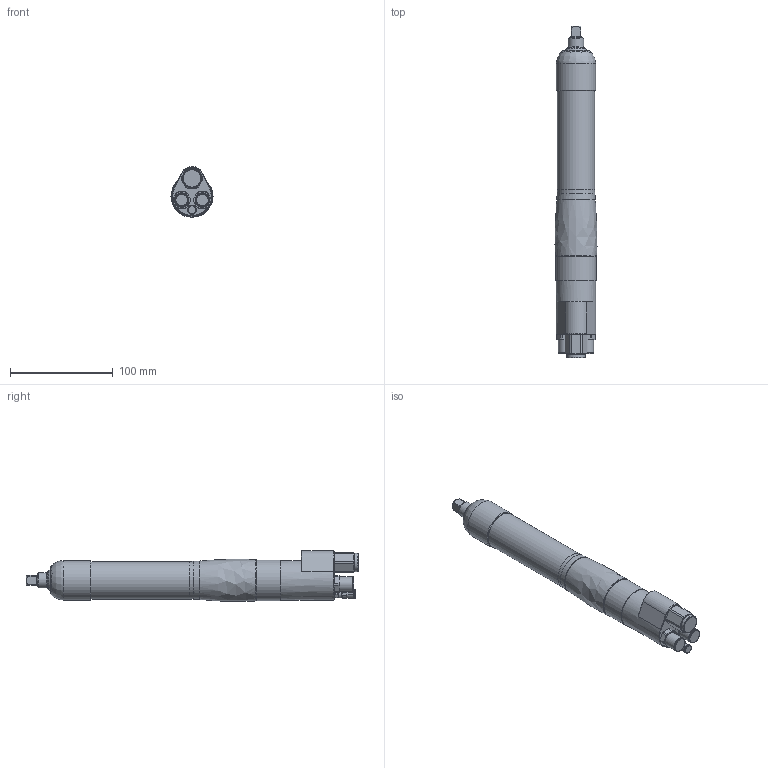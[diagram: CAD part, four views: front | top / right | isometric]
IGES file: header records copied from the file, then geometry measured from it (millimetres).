
Global section: file name: C:\Documents and Settings\tbok\Desktop\QA4ASRS027BF20S06.igs; native system: Unigraphics Version X V2.0; preprocessor: Unigraphics NX IGES V2.0; date: 20060502.155704; units: millimetre
Bounding box: 40.98 x 323.79 x 49.52 mm (x, y, z)
Surface area: 43190.4 mm2 (no closed solid volume)
Topology: 0 solids, 0 shells, 503 faces, 4077 edges, 4037 vertices
Faces by surface type: revolution 417, extrusion 86
